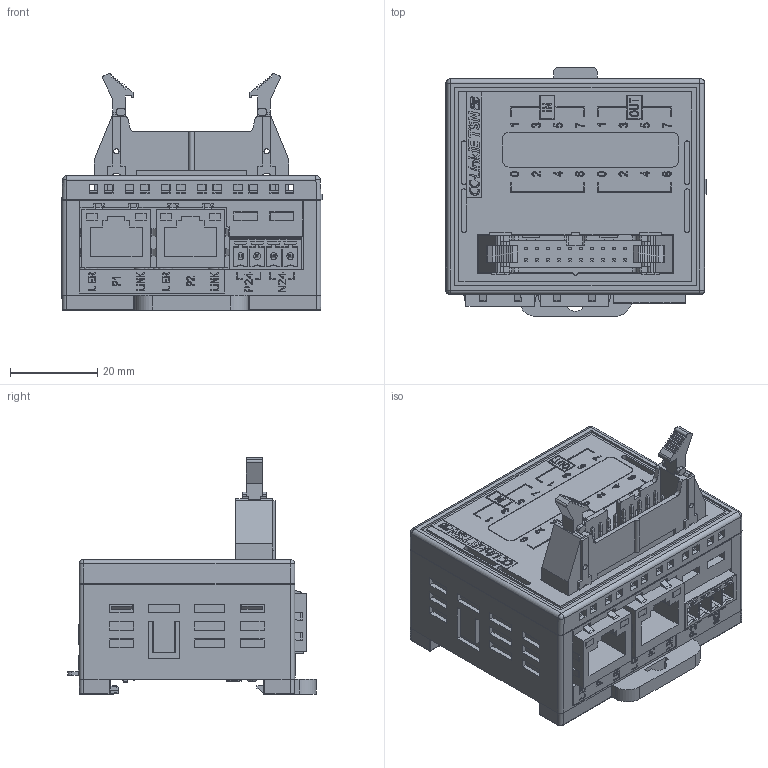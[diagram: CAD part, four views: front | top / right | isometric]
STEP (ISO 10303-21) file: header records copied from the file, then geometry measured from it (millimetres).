
FILE_DESCRIPTION((''),'2;1');
FILE_NAME('CTCMP88','2026-05-11T14:32:56',('gijyu181'),(''),'CREO PARAMETRIC BY PTC INC, 2018050','CREO PARAMETRIC BY PTC INC, 2018050','');
FILE_SCHEMA(('CONFIG_CONTROL_DESIGN','SHAPE_APPEARANCE_LAYERS_GROUPS'));
Products named in the file (1): CTCMP88
Bounding box: 59.75 x 57.15 x 54.5 mm (x, y, z)
Volume: 70719.4 mm3; surface area: 38764.3 mm2
Topology: 1 solids, 15 shells, 6191 faces, 17109 edges, 11253 vertices
Faces by surface type: plane 4816, cylinder 676, extrusion 585, sphere 44, torus 26, bspline 24, cone 20
Entity records: 246562 total; most frequent: CARTESIAN_POINT 43098, ORIENTED_EDGE 34190, DIRECTION 28728, EDGE_CURVE 17099, VECTOR 14818, LINE 14233, VERTEX_POINT 11253, PRESENTATION_STYLE_ASSIGNMENT 9327
